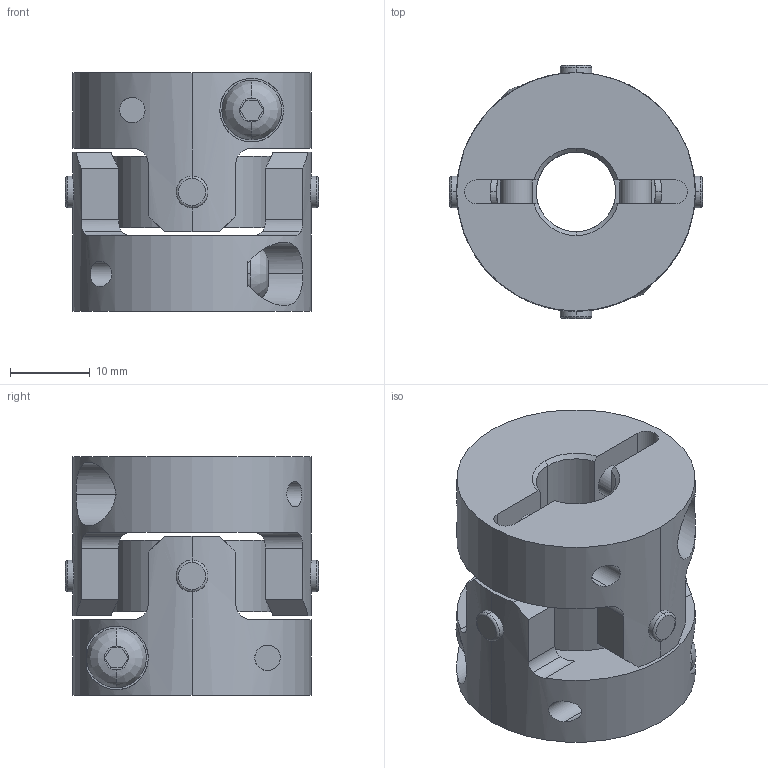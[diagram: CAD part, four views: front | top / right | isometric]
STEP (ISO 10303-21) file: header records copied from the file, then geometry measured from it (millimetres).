
FILE_DESCRIPTION((''),'2;1');
FILE_NAME('UA-30C-10×14.stp','2013-05-21T15:46:19',(''),(''),'AutoCAD STEP 2000i','AutoCAD 2000i',', , ');
FILE_SCHEMA(('CONFIG_CONTROL_DESIGN'));
Length unit declared in the file: millimetre
Products named in the file (7): UA-30C-6×11; 忣兜1; UA-3002-D11; BTN-M4; UA-3002-D06-1; UA-3002-D06; UA30-SEN
Assembly tree (8 placements, depth 3):
  UA-30C-6×11
    忣兜1
    UA-3002-D11
      BTN-M4
    UA-3002-D06-1
      BTN-M4
    UA-3002-D06
      BTN-M4
    UA30-SEN
Bounding box: 31.82 x 31.82 x 30 mm (x, y, z)
Volume: 13836.4 mm3; surface area: 8611.8 mm2
Topology: 1 solids, 1 shells, 206 faces, 554 edges, 364 vertices
Faces by surface type: cylinder 96, plane 78, cone 16, bspline 8, torus 8
Entity records: 8477 total; most frequent: CARTESIAN_POINT 3141, ORIENTED_EDGE 1108, DIRECTION 1068, EDGE_CURVE 554, AXIS2_PLACEMENT_3D 411, VERTEX_POINT 364, VECTOR 246, LINE 246
